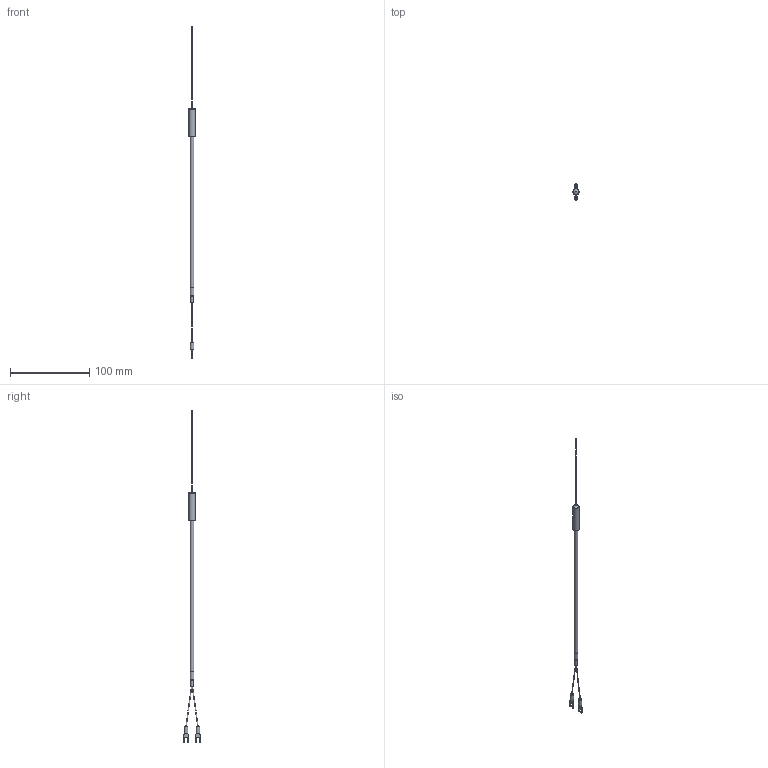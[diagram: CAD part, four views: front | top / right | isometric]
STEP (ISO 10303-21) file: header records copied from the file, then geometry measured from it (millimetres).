
FILE_DESCRIPTION (( 'STEP AP203' ), '1' );
FILE_NAME ('YIT101S-5(0).STEP', '2024-05-02T06:50:23', ( '' ), ( '' ), 'SwSTEP 2.0', 'SolidWorks 2021', '' );
FILE_SCHEMA (( 'CONFIG_CONTROL_DESIGN' ));
Length unit declared in the file: millimetre
Products named in the file (1): YIT101S-5(0)
Bounding box: 8 x 20.85 x 420 mm (x, y, z)
Volume: 5919.6 mm3; surface area: 5048.6 mm2
Topology: 1 solids, 1 shells, 68 faces, 163 edges, 106 vertices
Faces by surface type: plane 35, cylinder 21, bspline 8, torus 2, cone 2
Full cylindrical faces by diameter (mm): 0.5 x1, 3.16 x1, 4.5 x2, 4.8 x1, 5 x1, 8 x1
Entity records: 2100 total; most frequent: CARTESIAN_POINT 520, DIRECTION 304, ORIENTED_EDGE 292, EDGE_CURVE 146, AXIS2_PLACEMENT_3D 109, VERTEX_POINT 102, EDGE_LOOP 90, VECTOR 86
